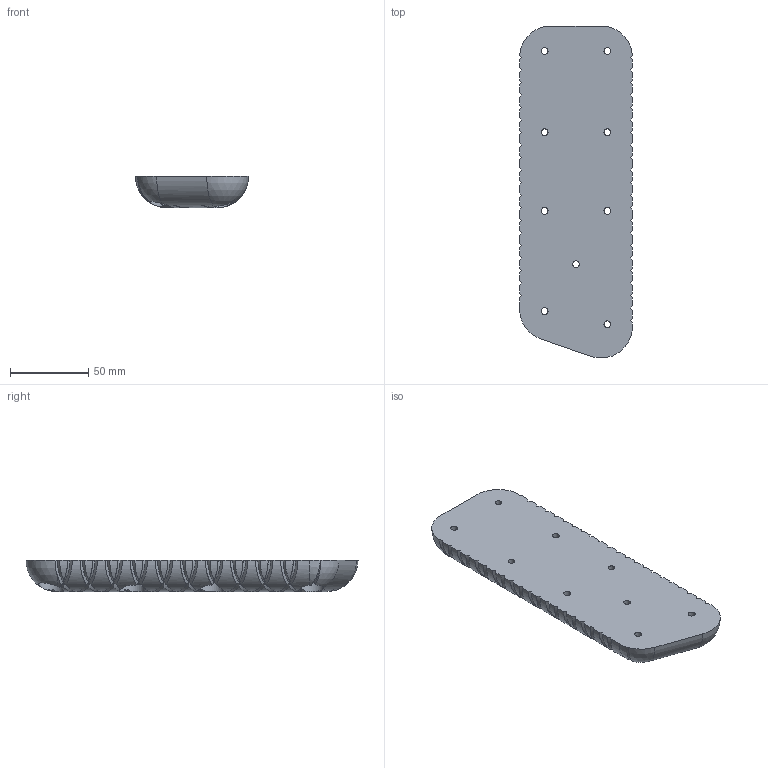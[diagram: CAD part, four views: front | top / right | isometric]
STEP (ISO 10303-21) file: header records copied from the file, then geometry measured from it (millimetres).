
FILE_DESCRIPTION(/* description */ ('STEP AP242 Edition 2','CAx-IF Rec.Pracs.---Representation and Presentation of Product Manufacturing Information (PMI)---4.0---2014-10-13','CAx-IF Rec.Pracs.---3D Tessellated Geometry---0.4---2014-09-14','2;1','CAx-IF Rec.Pracs.---User Defined Attributes---1.5---2016-08-15'),/* implementation_level */ '2;1');
FILE_NAME(/* name */ 'Assy_ForMFG - KD-D-601R',/* time_stamp */ '2026-05-15T19:56:44Z',/* author */ (''),/* organization */ (''),/* preprocessor_version */ 'ST-DEVELOPER v20',/* originating_system */ 'ONSHAPE BY PTC INC, 1.215',/* authorisation */ ' ');
FILE_SCHEMA (('AP242_MANAGED_MODEL_BASED_3D_ENGINEERING_MIM_LF { 1 0 10303 442 3 1 4 }'));
Length unit declared in the file: metre
Products named in the file (1): KD-D-601R
Bounding box: 72 x 211.88 x 20 mm (x, y, z)
Volume: 218695.7 mm3; surface area: 43230 mm2
Topology: 1 solids, 1 shells, 690 faces, 1674 edges, 986 vertices
Faces by surface type: bspline 324, plane 264, cylinder 97, sphere 5
Full cylindrical faces by diameter (mm): 4.3 x9, 16.5 x7
Entity records: 26811 total; most frequent: CARTESIAN_POINT 13528, ORIENTED_EDGE 3282, DIRECTION 1690, EDGE_CURVE 1641, VERTEX_POINT 972, B_SPLINE_CURVE_WITH_KNOTS 804, EDGE_LOOP 725, FACE_BOUND 725
